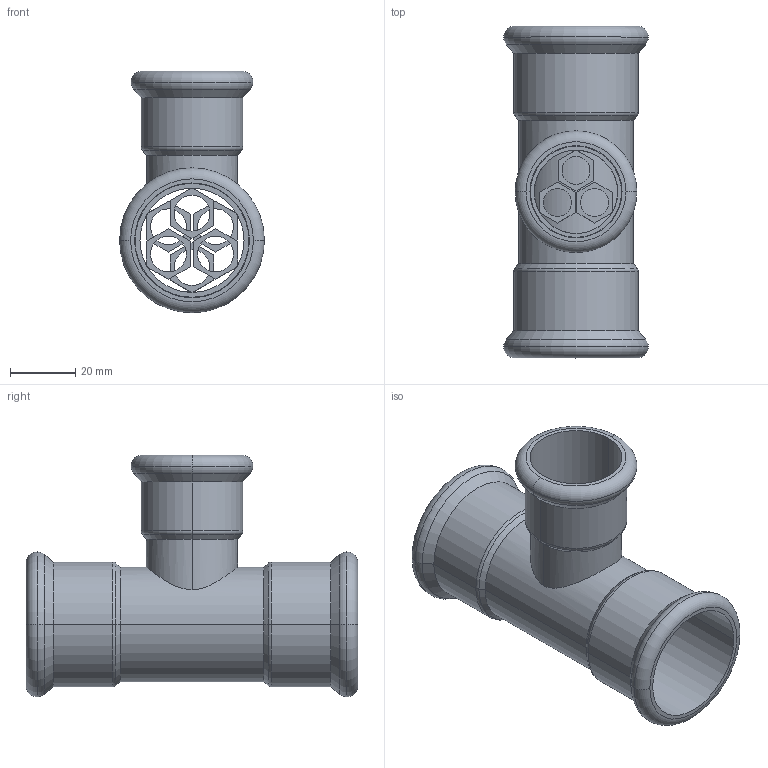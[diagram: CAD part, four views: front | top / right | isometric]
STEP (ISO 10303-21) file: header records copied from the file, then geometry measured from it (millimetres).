
FILE_DESCRIPTION(('OneSpaceDesigner STEP Export'),'2;1');
FILE_NAME('R2715 35x28x35.stp','2010-06-10T 9:04:38',(''),(''),'OneSpace Designer STEP processor for AP214 (Solid Model)','OneSpace Modeling 15.00A 14-Mar-2007 (C) CoCreate Software GmbH','');
FILE_SCHEMA(('AUTOMOTIVE_DESIGN { 1 0 10303 214 1 1 1 1 }'));
Length unit declared in the file: millimetre
Products named in the file (2): R2715_35x28x35
Assembly tree (1 placements, depth 2):
  R2715_35x28x35
    R2715_35x28x35
Bounding box: 44.55 x 102 x 74.28 mm (x, y, z)
Volume: 30673.7 mm3; surface area: 34645.6 mm2
Topology: 1 solids, 1 shells, 174 faces, 429 edges, 274 vertices
Faces by surface type: plane 90, cylinder 54, torus 18, cone 12
Entity records: 5818 total; most frequent: CARTESIAN_POINT 1981, ORIENTED_EDGE 858, DIRECTION 683, EDGE_CURVE 429, VERTEX_POINT 274, VECTOR 263, LINE 263, EDGE_LOOP 211
